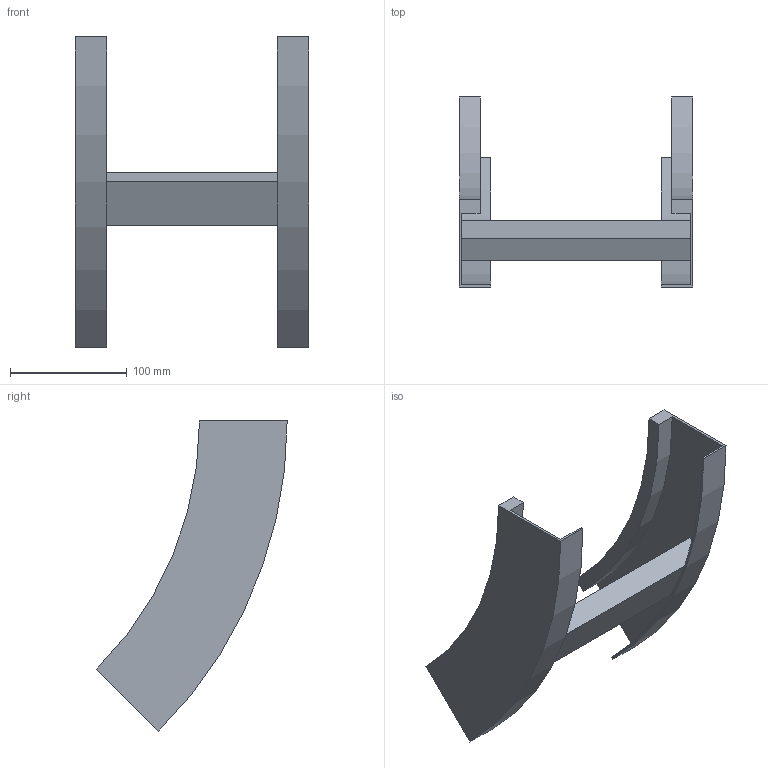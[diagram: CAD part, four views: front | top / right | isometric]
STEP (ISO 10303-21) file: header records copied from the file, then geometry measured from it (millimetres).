
FILE_DESCRIPTION (( 'STEP AP214' ), '1' );
FILE_NAME ('B2X31B3C200XX.step', '2025-03-20T10:10:14', ( '' ), ( '' ), 'SwSTEP 2.0', 'SolidWorks 2023', '' );
FILE_SCHEMA (( 'AUTOMOTIVE_DESIGN' ));
Length unit declared in the file: millimetre
Products named in the file (3): B2_LONGH.SALITA_45°_H75_R300; TRAVERSINO_200; B2X31B3C200XX
Assembly tree (3 placements, depth 2):
  B2X31B3C200XX
    B2_LONGH.SALITA_45°_H75_R300  x2
    TRAVERSINO_200
Bounding box: 200 x 162.87 x 265.17 mm (x, y, z)
Volume: 359942.9 mm3; surface area: 153301.3 mm2
Topology: 3 solids, 3 shells, 26 faces, 60 edges, 40 vertices
Faces by surface type: plane 18, cylinder 8
Entity records: 544 total; most frequent: DIRECTION 88, CARTESIAN_POINT 82, ORIENTED_EDGE 72, EDGE_CURVE 36, AXIS2_PLACEMENT_3D 30, VECTOR 28, LINE 28, VERTEX_POINT 24
